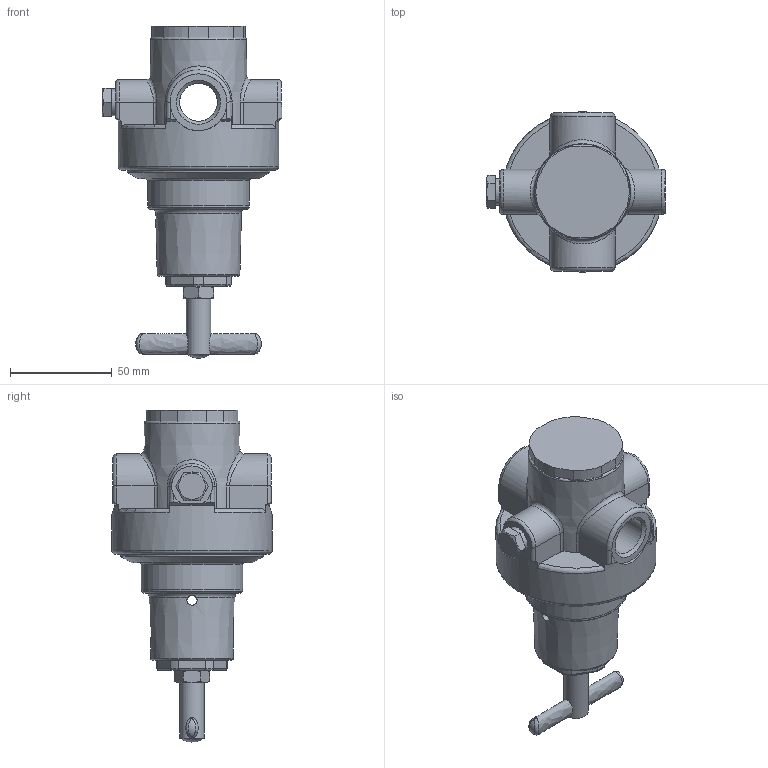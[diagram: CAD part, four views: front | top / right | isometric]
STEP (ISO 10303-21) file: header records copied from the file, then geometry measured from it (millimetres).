
FILE_DESCRIPTION(/* description */ (''),/* implementation_level */ '2;1');
FILE_NAME(/* name */ 'U:/AirCom-Produktdokumentation/Druckregler/R120/Zeichnungen/CAD-Aircom/3D/B-R120-04F.step',/* time_stamp */ '2019-05-22T11:14:16+02:00',/* author */ (''),/* organization */ (''),/* preprocessor_version */ 'ST-DEVELOPER v18',/* originating_system */ 'Autodesk Translation Framework v8.2.0.1029',/* authorisation */ '');
FILE_SCHEMA (('AUTOMOTIVE_DESIGN { 1 0 10303 214 3 1 1 }'));
Length unit declared in the file: millimetre
Products named in the file (8): (Nicht gespeichert); P20023; P34006; P21002; P43006; P28008; P33007; P34014
Assembly tree (7 placements, depth 2):
  (Nicht gespeichert)
    P20023
    P34006
    P21002
    P43006
    P28008
    P33007
    P34014
Bounding box: 88.43 x 78.8 x 163.24 mm (x, y, z)
Volume: 93483.2 mm3; surface area: 66724.9 mm2
Topology: 8 solids, 8 shells, 219 faces, 571 edges, 370 vertices
Faces by surface type: plane 70, cylinder 62, cone 48, torus 20, bspline 16, sphere 3
Full cylindrical faces by diameter (mm): 5 x2, 5.5 x2, 6 x1, 7.338 x1, 10.376 x2, 11 x2, 11.445 x2, 12 x1, 13.157 x1, 18.631 x2, 28 x2, 36.925 x1, 47.413 x1, 50 x2, 54 x1, 57.902 x1, 68.376 x1, 70 x1, 76.429 x1, 78.8 x1
Entity records: 13448 total; most frequent: CARTESIAN_POINT 7972, ORIENTED_EDGE 1140, DIRECTION 1083, EDGE_CURVE 570, AXIS2_PLACEMENT_3D 456, VERTEX_POINT 370, EDGE_LOOP 244, CIRCLE 238
